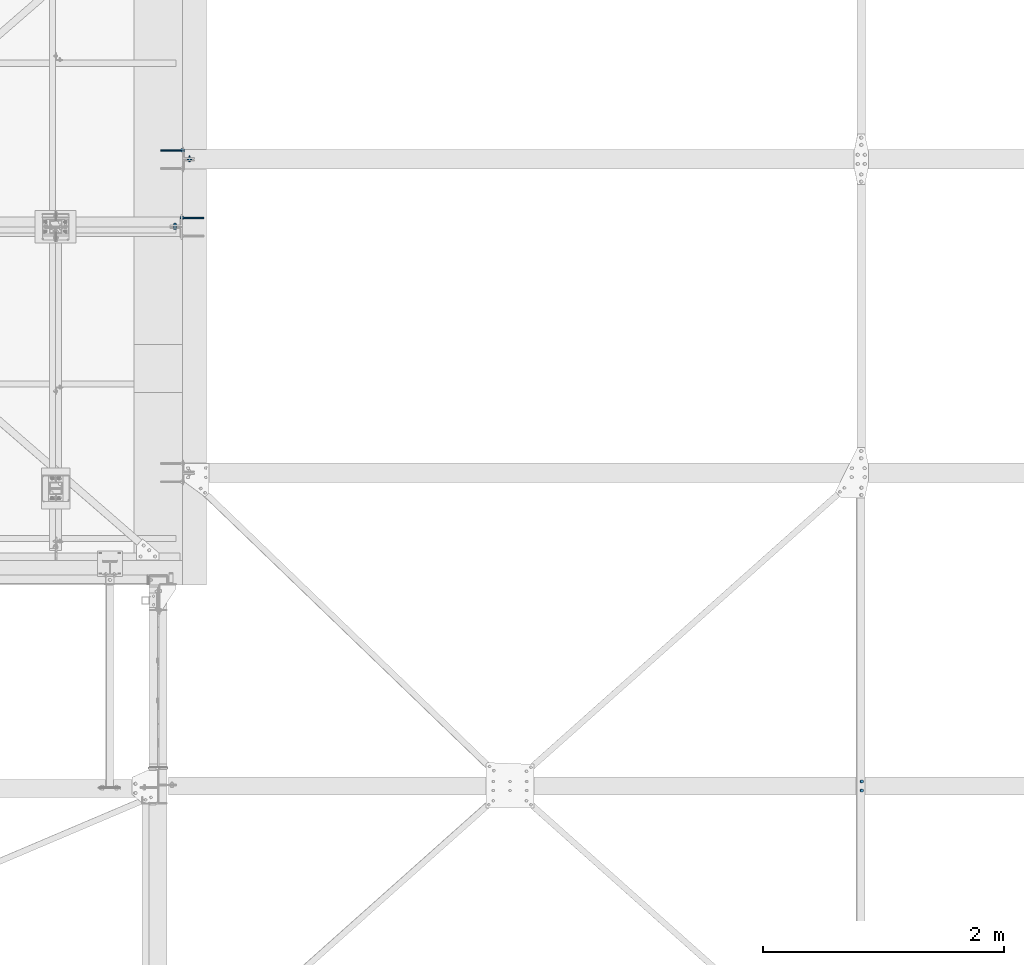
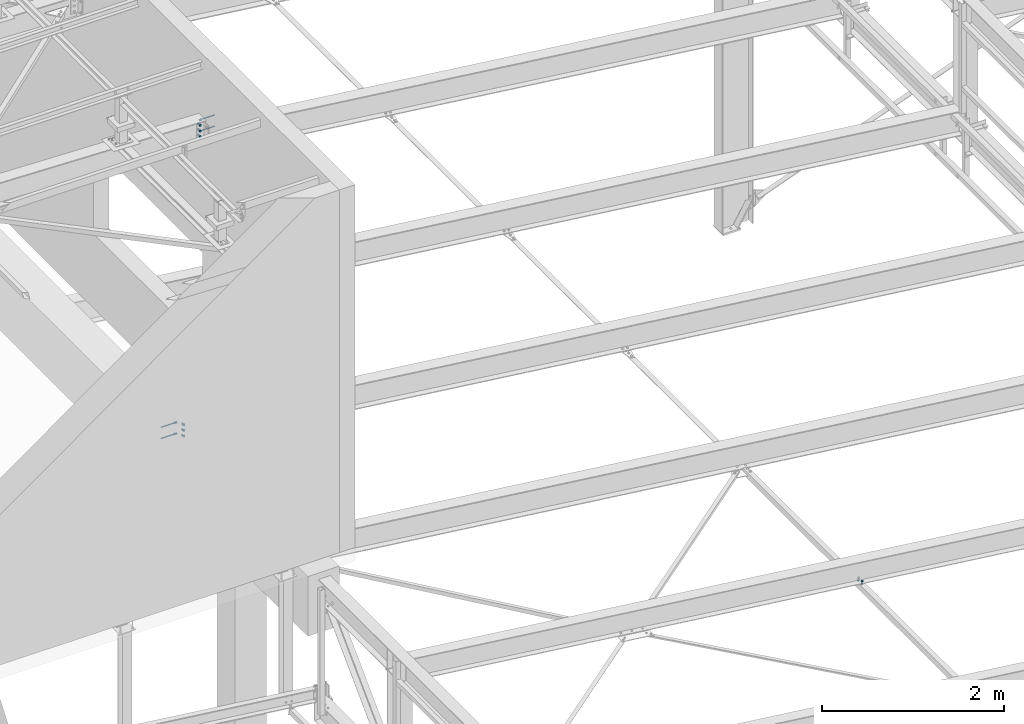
# One storey, part 269 of 3134: 5 mechanical fasteners, 4 elements without a shape of their own.
"""IFC2X3 building model written with IfcOpenShell, lengths in millimetres."""

from ifc_helpers import new_model, si_unit, frame, origin_with_axes, place, context, subcontext, project, spatial, faceted_brep, source, transform, mapped, material, type_object, element, aggregate, save


model = new_model("IFC2X3")

# Units and contexts
model_context = context("Model", 3, precision=1e-05, world=origin_with_axes())
body_context = subcontext(model_context, "Body", "Model", "MODEL_VIEW")
ifc_project = project(units=[si_unit("LENGTHUNIT", "METRE", prefix="MILLI"), si_unit("AREAUNIT", "SQUARE_METRE"), si_unit("VOLUMEUNIT", "CUBIC_METRE"), si_unit("MASSUNIT", "GRAM", prefix="KILO"), si_unit("TIMEUNIT", "SECOND"), si_unit("PLANEANGLEUNIT", "RADIAN"), si_unit("SOLIDANGLEUNIT", "STERADIAN"), si_unit("THERMODYNAMICTEMPERATUREUNIT", "DEGREE_CELSIUS"), si_unit("LUMINOUSINTENSITYUNIT", "LUMEN")], contexts=[model_context])

# Site, building, storey
site_placement = place(None, origin_with_axes())
site = spatial("IfcSite", under=ifc_project, at=site_placement, CompositionType="ELEMENT")
building_placement = place(site_placement, origin_with_axes())
building = spatial("IfcBuilding", under=site, at=building_placement, Name="Undefined", CompositionType="ELEMENT")
storey_placement = place(building_placement, origin_with_axes())
storey = spatial("IfcBuildingStorey", under=building, at=storey_placement, Name="Undefined", CompositionType="ELEMENT", Elevation=0.0)

# Assembly, mechanical fastener
assembly_1_placement = place(storey_placement, origin_with_axes())
assembly_1 = element("IfcElementAssembly", 1, at=assembly_1_placement, inside=storey, AssemblyPlace="NOTDEFINED", PredefinedType="RIGID_FRAME")
ifc_material_1 = material(Name="8.8")
mechanical_fastener_type = type_object("IfcMechanicalFastenerType", Name="Bolt assembly")
shared_shape_1 = source(origin_with_axes(), body_context, "Body", "Brep", [
    faceted_brep([(13.856406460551, -24.0, 0.0), (6.92820323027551, -24.0, 12.0), (-6.92820323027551, -24.0, 12.0), (-13.856406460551, -24.0, 1.69692038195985e-15), (-6.92820323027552, -24.0, -12.0), (6.9282032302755, -24.0, -12.0), (6.9282032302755, -14.0, -12.0), (-6.92820323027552, -14.0, -12.0), (-13.856406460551, -14.0, 1.69692038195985e-15), (-6.92820323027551, -14.0, 12.0), (6.92820323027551, -14.0, 12.0), (13.856406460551, -14.0, 0.0), (8.0, -14.0, 0.0), (6.92820323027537, -14.0, 4.00000000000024), (3.99999999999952, -14.0, 6.92820323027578), (-8.29068785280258e-13, -14.0, 8.0), (-4.00000000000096, -14.0, 6.92820323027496), (-6.9282032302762, -14.0, 3.99999999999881), (-8.0, -14.0, -1.65813757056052e-12), (-6.92820323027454, -14.0, -4.00000000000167), (-3.99999999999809, -14.0, -6.92820323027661), (2.47832457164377e-12, -14.0, -8.0), (4.00000000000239, -14.0, -6.92820323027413), (6.92820323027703, -14.0, -3.99999999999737), (6.92820323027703, 31.0, -3.99999999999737), (4.00000000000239, 31.0, -6.92820323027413), (2.47832457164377e-12, 31.0, -8.0), (-3.99999999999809, 31.0, -6.92820323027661), (-6.92820323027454, 31.0, -4.00000000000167), (-8.0, 31.0, -1.65813757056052e-12), (-6.9282032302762, 31.0, 3.99999999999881), (-4.00000000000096, 31.0, 6.92820323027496), (-8.29068785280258e-13, 31.0, 8.0), (3.99999999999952, 31.0, 6.92820323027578), (6.92820323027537, 31.0, 4.00000000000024), (8.0, 31.0, 0.0), (13.856406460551, 13.9999999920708, 0.0), (6.92820323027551, 13.9999999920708, 12.0), (-6.92820323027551, 13.9999999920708, 12.0), (-13.856406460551, 13.9999999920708, 1.69692038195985e-15), (-6.92820323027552, 13.9999999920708, -12.0), (6.9282032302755, 13.9999999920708, -12.0), (6.9282032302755, 27.0, -12.0), (-6.92820323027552, 27.0, -12.0), (-13.856406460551, 27.0, 1.69692038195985e-15), (-6.92820323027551, 27.0, 12.0), (6.92820323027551, 27.0, 12.0), (13.856406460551, 27.0, 0.0)], [[[0, 1, 2, 3, 4, 5]], [[6, 7, 8, 9, 10, 11]], [[0, 11, 10, 1]], [[1, 10, 9, 2]], [[2, 9, 8, 3]], [[3, 8, 7, 4]], [[4, 7, 6, 5]], [[5, 6, 11, 0]], [[12, 13, 14, 15, 16, 17, 18, 19, 20, 21, 22, 23]], [[24, 25, 26, 27, 28, 29, 30, 31, 32, 33, 34, 35]], [[12, 35, 34, 13]], [[13, 34, 33, 14]], [[14, 33, 32, 15]], [[15, 32, 31, 16]], [[16, 31, 30, 17]], [[17, 30, 29, 18]], [[18, 29, 28, 19]], [[19, 28, 27, 20]], [[20, 27, 26, 21]], [[21, 26, 25, 22]], [[22, 25, 24, 23]], [[23, 24, 35, 12]], [[36, 37, 38, 39, 40, 41]], [[42, 43, 44, 45, 46, 47]], [[36, 47, 46, 37]], [[37, 46, 45, 38]], [[38, 45, 44, 39]], [[39, 44, 43, 40]], [[40, 43, 42, 41]], [[41, 42, 47, 36]]]),
    faceted_brep([(9.0, -3.75, 8.0), (8.31491579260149, -3.75, 11.444150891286), (6.3639610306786, -3.75, 14.3639610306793), (-9.3270238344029e-13, -3.75, 17.0), (-4.50000000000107, -3.75, 15.7942286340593), (-7.79422863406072, -3.75, 12.4999999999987), (-9.0, -3.75, 7.99999999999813), (-9.0, -3.75, -8.00000000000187), (-7.79422863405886, -3.75, -12.5000000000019), (-4.49999999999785, -3.75, -15.7942286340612), (2.78811514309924e-12, -3.75, -17.0), (4.50000000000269, -3.75, -15.7942286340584), (7.79422863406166, -3.75, -12.499999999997), (9.0, -3.75, -7.99999999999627), (9.0, 3.75, -7.99999999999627), (7.79422863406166, 3.75, -12.499999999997), (4.50000000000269, 3.75, -15.7942286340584), (2.78811514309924e-12, 3.75, -17.0), (-4.49999999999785, 3.75, -15.7942286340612), (-7.79422863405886, 3.75, -12.5000000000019), (-9.0, 3.75, -8.00000000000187), (-9.0, 3.75, 7.99999999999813), (-7.79422863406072, 3.75, 12.4999999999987), (-4.50000000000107, 3.75, 15.7942286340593), (-9.3270238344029e-13, 3.75, 17.0), (3.44415089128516, 3.75, 16.3149157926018), (6.3639610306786, 3.75, 14.3639610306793), (8.31491579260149, 3.75, 11.444150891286), (9.0, 3.75, 8.0), (3.44415089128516, -3.75, 16.3149157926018), (9.0, 3.9, 0.0), (7.79422863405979, 3.9, 4.50000000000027), (4.49999999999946, 3.9, 7.79422863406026), (-9.3270238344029e-13, 3.9, 9.0), (-4.50000000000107, 3.9, 7.79422863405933), (-7.79422863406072, 3.9, 4.49999999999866), (-9.0, 3.9, -1.86540476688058e-12), (-7.79422863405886, 3.9, -4.50000000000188), (-4.49999999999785, 3.9, -7.79422863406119), (2.78811514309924e-12, 3.9, -9.0), (4.50000000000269, 3.9, -7.7942286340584), (7.79422863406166, 3.9, -4.49999999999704), (7.79422863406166, 14.0, -4.49999999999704), (4.50000000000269, 14.0, -7.7942286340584), (2.78811514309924e-12, 14.0, -9.0), (-4.49999999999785, 14.0, -7.79422863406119), (-7.79422863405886, 14.0, -4.50000000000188), (-9.0, 14.0, -1.86540476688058e-12), (-7.79422863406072, 14.0, 4.49999999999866), (-4.50000000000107, 14.0, 7.79422863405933), (-9.3270238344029e-13, 14.0, 9.0), (4.49999999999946, 14.0, 7.79422863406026), (7.79422863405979, 14.0, 4.50000000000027), (9.0, 14.0, 0.0), (9.0, -13.9, 0.0), (7.79422863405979, -13.9, 4.50000000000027), (4.49999999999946, -13.9, 7.79422863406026), (-9.3270238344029e-13, -13.9, 9.0), (-4.50000000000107, -13.9, 7.79422863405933), (-7.79422863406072, -13.9, 4.49999999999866), (-9.0, -13.9, -1.86540476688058e-12), (-7.79422863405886, -13.9, -4.50000000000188), (-4.49999999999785, -13.9, -7.79422863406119), (2.78811514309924e-12, -13.9, -9.0), (4.50000000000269, -13.9, -7.7942286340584), (7.79422863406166, -13.9, -4.49999999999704), (7.79422863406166, -3.9, -4.49999999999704), (4.50000000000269, -3.9, -7.7942286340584), (2.78811514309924e-12, -3.9, -9.0), (-4.49999999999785, -3.9, -7.79422863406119), (-7.79422863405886, -3.9, -4.50000000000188), (-9.0, -3.9, -1.86540476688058e-12), (-7.79422863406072, -3.9, 4.49999999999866), (-4.50000000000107, -3.9, 7.79422863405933), (-9.3270238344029e-13, -3.9, 9.0), (4.49999999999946, -3.9, 7.79422863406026), (7.79422863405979, -3.9, 4.50000000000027), (9.0, -3.9, 0.0)], [[[0, 1, 2, 3, 4, 5, 6, 7, 8, 9, 10, 11, 12, 13]], [[14, 15, 16, 17, 18, 19, 20, 21, 22, 23, 24, 25, 26, 27, 28]], [[0, 28, 27, 1]], [[1, 27, 26, 2]], [[2, 26, 25, 29]], [[29, 25, 24, 3]], [[3, 24, 23, 4]], [[4, 23, 22, 5]], [[5, 22, 21, 6]], [[6, 21, 20, 7]], [[7, 20, 19, 8]], [[8, 19, 18, 9]], [[9, 18, 17, 10]], [[10, 17, 16, 11]], [[11, 16, 15, 12]], [[12, 15, 14, 13]], [[13, 14, 28, 0]], [[30, 31, 32, 33, 34, 35, 36, 37, 38, 39, 40, 41]], [[42, 43, 44, 45, 46, 47, 48, 49, 50, 51, 52, 53]], [[30, 53, 52, 31]], [[31, 52, 51, 32]], [[32, 51, 50, 33]], [[33, 50, 49, 34]], [[34, 49, 48, 35]], [[35, 48, 47, 36]], [[36, 47, 46, 37]], [[37, 46, 45, 38]], [[38, 45, 44, 39]], [[39, 44, 43, 40]], [[40, 43, 42, 41]], [[41, 42, 53, 30]], [[54, 55, 56, 57, 58, 59, 60, 61, 62, 63, 64, 65]], [[66, 67, 68, 69, 70, 71, 72, 73, 74, 75, 76, 77]], [[54, 77, 76, 55]], [[55, 76, 75, 56]], [[56, 75, 74, 57]], [[57, 74, 73, 58]], [[58, 73, 72, 59]], [[59, 72, 71, 60]], [[60, 71, 70, 61]], [[61, 70, 69, 62]], [[62, 69, 68, 63]], [[63, 68, 67, 64]], [[64, 67, 66, 65]], [[65, 66, 77, 54]]]),
])
mechanical_fastener_1_placement = place(assembly_1_placement, frame((32665.0, 52690.0, 10096.4159140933), z_axis=(1.0, 0.0, 0.0), x_axis=(0.0, 0.0, -1.0)))
mechanical_fastener_1 = element("IfcMechanicalFastener", 2, at=mechanical_fastener_1_placement, type_object=mechanical_fastener_type, material=ifc_material_1, Name="Bolt assembly", NominalDiameter=16.0, NominalLength=45.0, context=body_context, shape_type="MappedRepresentation", body=[
    mapped(shared_shape_1, transform((0.0, 0.0, 0.0))),
    mapped(shared_shape_1, transform((75.0, 0.0, 0.0))),
    mapped(shared_shape_1, transform((150.0, 0.0, 0.0))),
])

assembly_2_placement = place(storey_placement, origin_with_axes())
assembly_2 = element("IfcElementAssembly", 3, at=assembly_2_placement, inside=storey, AssemblyPlace="NOTDEFINED", PredefinedType="RIGID_FRAME")
ifc_material_2 = material(Name="HILTI-HAS")
shared_shape_2 = source(origin_with_axes(), body_context, "Body", "Brep", [
    faceted_brep([(13.856406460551, -20.56, 0.0), (6.92820323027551, -20.56, 12.0), (-6.92820323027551, -20.56, 12.0), (-13.856406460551, -20.56, 1.69692038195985e-15), (-6.92820323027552, -20.56, -12.0), (6.9282032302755, -20.56, -12.0), (6.9282032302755, -10.0, -12.0), (-6.92820323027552, -10.0, -12.0), (-13.856406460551, -10.0, 1.69692038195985e-15), (-6.92820323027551, -10.0, 12.0), (6.92820323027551, -10.0, 12.0), (13.856406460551, -10.0, 0.0), (8.0, -10.0, 0.0), (6.92820323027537, -10.0, 4.00000000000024), (3.99999999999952, -10.0, 6.92820323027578), (-8.29068785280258e-13, -10.0, 8.0), (-4.00000000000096, -10.0, 6.92820323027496), (-6.9282032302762, -10.0, 3.99999999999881), (-8.0, -10.0, -1.65813757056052e-12), (-6.92820323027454, -10.0, -4.00000000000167), (-3.99999999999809, -10.0, -6.92820323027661), (2.47832457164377e-12, -10.0, -8.0), (4.00000000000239, -10.0, -6.92820323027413), (6.92820323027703, -10.0, -3.99999999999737), (6.92820323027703, 180.0, -3.99999999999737), (4.00000000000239, 180.0, -6.92820323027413), (2.47832457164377e-12, 180.0, -8.0), (-3.99999999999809, 180.0, -6.92820323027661), (-6.92820323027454, 180.0, -4.00000000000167), (-8.0, 180.0, -1.65813757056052e-12), (-6.9282032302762, 180.0, 3.99999999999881), (-4.00000000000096, 180.0, 6.92820323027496), (-8.29068785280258e-13, 180.0, 8.0), (3.99999999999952, 180.0, 6.92820323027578), (6.92820323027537, 180.0, 4.00000000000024), (8.0, 180.0, 0.0), (15.3344231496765, 7.105427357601e-15, 0.0), (7.66721157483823, 7.105427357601e-15, 13.28), (-7.66721157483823, 7.105427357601e-15, 13.28), (-15.3344231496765, 7.105427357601e-15, 1.87792522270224e-15), (-7.66721157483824, 7.105427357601e-15, -13.28), (7.66721157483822, 7.105427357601e-15, -13.28), (7.66721157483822, 10.56, -13.28), (-7.66721157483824, 10.56, -13.28), (-15.3344231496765, 10.56, 1.87792522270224e-15), (-7.66721157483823, 10.56, 13.28), (7.66721157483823, 10.56, 13.28), (15.3344231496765, 10.56, 0.0)], [[[0, 1, 2, 3, 4, 5]], [[6, 7, 8, 9, 10, 11]], [[0, 11, 10, 1]], [[1, 10, 9, 2]], [[2, 9, 8, 3]], [[3, 8, 7, 4]], [[4, 7, 6, 5]], [[5, 6, 11, 0]], [[12, 13, 14, 15, 16, 17, 18, 19, 20, 21, 22, 23]], [[24, 25, 26, 27, 28, 29, 30, 31, 32, 33, 34, 35]], [[12, 35, 34, 13]], [[13, 34, 33, 14]], [[14, 33, 32, 15]], [[15, 32, 31, 16]], [[16, 31, 30, 17]], [[17, 30, 29, 18]], [[18, 29, 28, 19]], [[19, 28, 27, 20]], [[20, 27, 26, 21]], [[21, 26, 25, 22]], [[22, 25, 24, 23]], [[23, 24, 35, 12]], [[36, 37, 38, 39, 40, 41]], [[42, 43, 44, 45, 46, 47]], [[36, 47, 46, 37]], [[37, 46, 45, 38]], [[38, 45, 44, 39]], [[39, 44, 43, 40]], [[40, 43, 42, 41]], [[41, 42, 47, 36]]]),
    faceted_brep([(9.0, -10.0, 0.0), (7.79422863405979, -10.0, 4.50000000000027), (4.49999999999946, -10.0, 7.79422863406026), (-9.3270238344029e-13, -10.0, 9.0), (-4.50000000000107, -10.0, 7.79422863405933), (-7.79422863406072, -10.0, 4.49999999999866), (-9.0, -10.0, -1.86540476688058e-12), (-7.79422863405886, -10.0, -4.50000000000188), (-4.49999999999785, -10.0, -7.79422863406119), (2.78811514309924e-12, -10.0, -9.0), (4.50000000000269, -10.0, -7.7942286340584), (7.79422863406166, -10.0, -4.49999999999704), (7.79422863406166, 0.100000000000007, -4.49999999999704), (4.50000000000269, 0.100000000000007, -7.7942286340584), (2.78811514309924e-12, 0.100000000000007, -9.0), (-4.49999999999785, 0.100000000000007, -7.79422863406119), (-7.79422863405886, 0.100000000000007, -4.50000000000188), (-9.0, 0.100000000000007, -1.86540476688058e-12), (-7.79422863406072, 0.100000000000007, 4.49999999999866), (-4.50000000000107, 0.100000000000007, 7.79422863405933), (-9.3270238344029e-13, 0.100000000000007, 9.0), (4.49999999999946, 0.100000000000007, 7.79422863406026), (7.79422863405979, 0.100000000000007, 4.50000000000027), (9.0, 0.100000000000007, 0.0)], [[[0, 1, 2, 3, 4, 5, 6, 7, 8, 9, 10, 11]], [[12, 13, 14, 15, 16, 17, 18, 19, 20, 21, 22, 23]], [[0, 23, 22, 1]], [[1, 22, 21, 2]], [[2, 21, 20, 3]], [[3, 20, 19, 4]], [[4, 19, 18, 5]], [[5, 18, 17, 6]], [[6, 17, 16, 7]], [[7, 16, 15, 8]], [[8, 15, 14, 9]], [[9, 14, 13, 10]], [[10, 13, 12, 11]], [[11, 12, 23, 0]]]),
])
mechanical_fastener_2_placement = place(assembly_2_placement, frame((32724.999999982, 53324.9999999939, 5696.01703557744), z_axis=(0.0, 1.0, 0.0), x_axis=(0.0, 0.0, -1.0)))
mechanical_fastener_2 = element("IfcMechanicalFastener", 4, at=mechanical_fastener_2_placement, type_object=mechanical_fastener_type, material=ifc_material_2, Name="Bolt assembly", NominalDiameter=16.0, NominalLength=190.0, context=body_context, shape_type="MappedRepresentation", body=[
    mapped(shared_shape_2, transform((0.0, 0.0, 0.0))),
    mapped(shared_shape_2, transform((150.0, 0.0, 0.0))),
])
aggregate(assembly_2, [mechanical_fastener_2])

# Mechanical fastener
mechanical_fastener_3_placement = place(assembly_1_placement, frame((32725.0, 52765.0, 10096.4159140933), z_axis=(0.0, -1.0, 0.0), x_axis=(0.0, 0.0, -1.0)))
mechanical_fastener_3 = element("IfcMechanicalFastener", 5, at=mechanical_fastener_3_placement, type_object=mechanical_fastener_type, material=ifc_material_2, Name="Bolt assembly", NominalDiameter=16.0, NominalLength=190.0, context=body_context, shape_type="MappedRepresentation", body=[
    mapped(shared_shape_2, transform((0.0, 0.0, 0.0))),
    mapped(shared_shape_2, transform((150.0, 0.0, 0.0))),
])

aggregate(assembly_1, [mechanical_fastener_3, mechanical_fastener_1])

# Assembly, mechanical fastener
assembly_3_placement = place(storey_placement, origin_with_axes())
assembly_3 = element("IfcElementAssembly", 6, at=assembly_3_placement, inside=storey, Name="IPE330", AssemblyPlace="NOTDEFINED", PredefinedType="RIGID_FRAME")
shared_shape_3 = source(origin_with_axes(), body_context, "Body", "Brep", [
    faceted_brep([(10.9696551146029, -21.75, 0.0), (5.48482755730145, -21.75, 9.5), (-5.48482755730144, -21.75, 9.5), (-10.9696551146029, -21.75, 1.34339530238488e-15), (-5.48482755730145, -21.75, -9.5), (5.48482755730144, -21.75, -9.50000000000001), (5.48482755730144, -13.75, -9.50000000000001), (-5.48482755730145, -13.75, -9.5), (-10.9696551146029, -13.75, 1.34339530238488e-15), (-5.48482755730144, -13.75, 9.5), (5.48482755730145, -13.75, 9.5), (10.9696551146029, -13.75, 0.0), (6.0, -13.75, 0.0), (5.19615242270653, -13.75, 3.00000000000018), (2.99999999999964, -13.75, 5.19615242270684), (-6.21801588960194e-13, -13.75, 6.0), (-3.00000000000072, -13.75, 5.19615242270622), (-5.19615242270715, -13.75, 2.9999999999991), (-6.0, -13.75, -1.24360317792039e-12), (-5.19615242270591, -13.75, -3.00000000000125), (-2.99999999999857, -13.75, -5.19615242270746), (1.85874342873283e-12, -13.75, -6.0), (3.00000000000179, -13.75, -5.1961524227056), (5.19615242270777, -13.75, -2.99999999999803), (5.19615242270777, 31.25, -2.99999999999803), (3.00000000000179, 31.25, -5.1961524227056), (1.85874342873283e-12, 31.25, -6.0), (-2.99999999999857, 31.25, -5.19615242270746), (-5.19615242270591, 31.25, -3.00000000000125), (-6.0, 31.25, -1.24360317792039e-12), (-5.19615242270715, 31.25, 2.9999999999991), (-3.00000000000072, 31.25, 5.19615242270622), (-6.21801588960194e-13, 31.25, 6.0), (2.99999999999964, 31.25, 5.19615242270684), (5.19615242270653, 31.25, 3.00000000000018), (6.0, 31.25, 0.0), (10.9696551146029, 13.7500000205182, 0.0), (5.48482755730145, 13.7500000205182, 9.5), (-5.48482755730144, 13.7500000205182, 9.5), (-10.9696551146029, 13.7500000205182, 1.34339530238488e-15), (-5.48482755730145, 13.7500000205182, -9.5), (5.48482755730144, 13.7500000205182, -9.50000000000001), (5.48482755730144, 23.7500000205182, -9.50000000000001), (-5.48482755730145, 23.7500000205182, -9.5), (-10.9696551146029, 23.7500000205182, 1.34339530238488e-15), (-5.48482755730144, 23.7500000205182, 9.5), (5.48482755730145, 23.7500000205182, 9.5), (10.9696551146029, 23.7500000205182, 0.0)], [[[0, 1, 2, 3, 4, 5]], [[6, 7, 8, 9, 10, 11]], [[0, 11, 10, 1]], [[1, 10, 9, 2]], [[2, 9, 8, 3]], [[3, 8, 7, 4]], [[4, 7, 6, 5]], [[5, 6, 11, 0]], [[12, 13, 14, 15, 16, 17, 18, 19, 20, 21, 22, 23]], [[24, 25, 26, 27, 28, 29, 30, 31, 32, 33, 34, 35]], [[12, 35, 34, 13]], [[13, 34, 33, 14]], [[14, 33, 32, 15]], [[15, 32, 31, 16]], [[16, 31, 30, 17]], [[17, 30, 29, 18]], [[18, 29, 28, 19]], [[19, 28, 27, 20]], [[20, 27, 26, 21]], [[21, 26, 25, 22]], [[22, 25, 24, 23]], [[23, 24, 35, 12]], [[36, 37, 38, 39, 40, 41]], [[42, 43, 44, 45, 46, 47]], [[36, 47, 46, 37]], [[37, 46, 45, 38]], [[38, 45, 44, 39]], [[39, 44, 43, 40]], [[40, 43, 42, 41]], [[41, 42, 47, 36]]]),
    faceted_brep([(7.0, -13.65, 0.0), (6.06217782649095, -13.65, 3.50000000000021), (3.49999999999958, -13.65, 6.06217782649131), (-7.25435187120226e-13, -13.65, 7.0), (-3.50000000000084, -13.65, 6.06217782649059), (-6.06217782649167, -13.65, 3.49999999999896), (-7.0, -13.65, -1.45087037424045e-12), (-6.06217782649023, -13.65, -3.50000000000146), (-3.49999999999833, -13.65, -6.06217782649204), (2.1685340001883e-12, -13.65, -7.0), (3.50000000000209, -13.65, -6.06217782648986), (6.0621778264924, -13.65, -3.4999999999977), (6.0621778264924, -3.65, -3.4999999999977), (3.50000000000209, -3.65, -6.06217782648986), (2.1685340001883e-12, -3.65, -7.0), (-3.49999999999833, -3.65, -6.06217782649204), (-6.06217782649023, -3.65, -3.50000000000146), (-7.0, -3.65, -1.45087037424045e-12), (-6.06217782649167, -3.65, 3.49999999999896), (-3.50000000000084, -3.65, 6.06217782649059), (-7.25435187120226e-13, -3.65, 7.0), (3.49999999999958, -3.65, 6.06217782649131), (6.06217782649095, -3.65, 3.50000000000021), (7.0, -3.65, 0.0), (7.0, -3.75, 13.0), (6.46715672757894, -3.75, 15.6787840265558), (4.94974746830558, -3.75, 17.9497474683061), (-7.25435187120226e-13, -3.75, 20.0), (-3.50000000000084, -3.75, 19.0621778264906), (-6.06217782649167, -3.75, 16.499999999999), (-7.0, -3.75, 12.9999999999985), (-7.0, -3.75, -13.0000000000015), (-6.06217782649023, -3.75, -16.5000000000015), (-3.49999999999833, -3.75, -19.062177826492), (2.1685340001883e-12, -3.75, -20.0), (3.50000000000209, -3.75, -19.0621778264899), (6.0621778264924, -3.75, -16.4999999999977), (7.0, -3.75, -12.9999999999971), (7.0, 3.75, -12.9999999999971), (6.0621778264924, 3.75, -16.4999999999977), (3.50000000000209, 3.75, -19.0621778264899), (2.1685340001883e-12, 3.75, -20.0), (-3.49999999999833, 3.75, -19.062177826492), (-6.06217782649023, 3.75, -16.5000000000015), (-7.0, 3.75, -13.0000000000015), (-7.0, 3.75, 12.9999999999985), (-6.06217782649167, 3.75, 16.499999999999), (-3.50000000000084, 3.75, 19.0621778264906), (-7.25435187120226e-13, 3.75, 20.0), (2.67878402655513, 3.75, 19.4671567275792), (4.94974746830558, 3.75, 17.9497474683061), (6.46715672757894, 3.75, 15.6787840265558), (7.0, 3.75, 13.0), (2.67878402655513, -3.75, 19.4671567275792), (7.0, 3.65000002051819, 0.0), (6.06217782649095, 3.65000002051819, 3.50000000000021), (3.49999999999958, 3.65000002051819, 6.06217782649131), (-7.25435187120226e-13, 3.65000002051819, 7.0), (-3.50000000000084, 3.65000002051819, 6.06217782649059), (-6.06217782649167, 3.65000002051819, 3.49999999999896), (-7.0, 3.65000002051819, -1.45087037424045e-12), (-6.06217782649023, 3.65000002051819, -3.50000000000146), (-3.49999999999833, 3.65000002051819, -6.06217782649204), (2.1685340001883e-12, 3.65000002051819, -7.0), (3.50000000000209, 3.65000002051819, -6.06217782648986), (6.0621778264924, 3.65000002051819, -3.4999999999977), (6.0621778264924, 13.7500000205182, -3.4999999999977), (3.50000000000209, 13.7500000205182, -6.06217782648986), (2.1685340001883e-12, 13.7500000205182, -7.0), (-3.49999999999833, 13.7500000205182, -6.06217782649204), (-6.06217782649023, 13.7500000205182, -3.50000000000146), (-7.0, 13.7500000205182, -1.45087037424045e-12), (-6.06217782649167, 13.7500000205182, 3.49999999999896), (-3.50000000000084, 13.7500000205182, 6.06217782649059), (-7.25435187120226e-13, 13.7500000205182, 7.0), (3.49999999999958, 13.7500000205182, 6.06217782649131), (6.06217782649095, 13.7500000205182, 3.50000000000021), (7.0, 13.7500000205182, 0.0)], [[[0, 1, 2, 3, 4, 5, 6, 7, 8, 9, 10, 11]], [[12, 13, 14, 15, 16, 17, 18, 19, 20, 21, 22, 23]], [[0, 23, 22, 1]], [[1, 22, 21, 2]], [[2, 21, 20, 3]], [[3, 20, 19, 4]], [[4, 19, 18, 5]], [[5, 18, 17, 6]], [[6, 17, 16, 7]], [[7, 16, 15, 8]], [[8, 15, 14, 9]], [[9, 14, 13, 10]], [[10, 13, 12, 11]], [[11, 12, 23, 0]], [[24, 25, 26, 27, 28, 29, 30, 31, 32, 33, 34, 35, 36, 37]], [[38, 39, 40, 41, 42, 43, 44, 45, 46, 47, 48, 49, 50, 51, 52]], [[24, 52, 51, 25]], [[25, 51, 50, 26]], [[26, 50, 49, 53]], [[53, 49, 48, 27]], [[27, 48, 47, 28]], [[28, 47, 46, 29]], [[29, 46, 45, 30]], [[30, 45, 44, 31]], [[31, 44, 43, 32]], [[32, 43, 42, 33]], [[33, 42, 41, 34]], [[34, 41, 40, 35]], [[35, 40, 39, 36]], [[36, 39, 38, 37]], [[37, 38, 52, 24]], [[54, 55, 56, 57, 58, 59, 60, 61, 62, 63, 64, 65]], [[66, 67, 68, 69, 70, 71, 72, 73, 74, 75, 76, 77]], [[54, 77, 76, 55]], [[55, 76, 75, 56]], [[56, 75, 74, 57]], [[57, 74, 73, 58]], [[58, 73, 72, 59]], [[59, 72, 71, 60]], [[60, 71, 70, 61]], [[61, 70, 69, 62]], [[62, 69, 68, 63]], [[63, 68, 67, 64]], [[64, 67, 66, 65]], [[65, 66, 77, 54]]]),
])
mechanical_fastener_4_placement = place(assembly_3_placement, frame((32785.0, 53250.0, 5696.01703557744), z_axis=(1.0, 0.0, 0.0), x_axis=(0.0, 0.0, -1.0)))
mechanical_fastener_4 = element("IfcMechanicalFastener", 7, at=mechanical_fastener_4_placement, type_object=mechanical_fastener_type, material=ifc_material_1, Name="Bolt assembly", NominalDiameter=12.0, NominalLength=45.0, context=body_context, shape_type="MappedRepresentation", body=[
    mapped(shared_shape_3, transform((0.0, 0.0, 0.0))),
    mapped(shared_shape_3, transform((75.0, 0.0, 0.0))),
    mapped(shared_shape_3, transform((150.0, 0.0, 0.0))),
])
aggregate(assembly_3, [mechanical_fastener_4])

assembly_4_placement = place(storey_placement, origin_with_axes())
assembly_4 = element("IfcElementAssembly", 8, at=assembly_4_placement, inside=storey, AssemblyPlace="NOTDEFINED", PredefinedType="RIGID_FRAME")
shared_shape_4 = source(origin_with_axes(), body_context, "Body", "Brep", [
    faceted_brep([(13.856406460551, -19.199990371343, 0.0), (6.92820323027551, -19.199990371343, 12.0), (-6.92820323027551, -19.199990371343, 12.0), (-13.856406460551, -19.199990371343, 1.69692038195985e-15), (-6.92820323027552, -19.199990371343, -12.0), (6.9282032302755, -19.199990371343, -12.0), (6.9282032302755, -9.19999037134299, -12.0), (-6.92820323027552, -9.19999037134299, -12.0), (-13.856406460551, -9.19999037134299, 1.69692038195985e-15), (-6.92820323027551, -9.19999037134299, 12.0), (6.92820323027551, -9.19999037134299, 12.0), (13.856406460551, -9.19999037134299, 0.0), (8.0, -9.19999037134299, 0.0), (6.92820323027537, -9.19999037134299, 4.00000000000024), (3.99999999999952, -9.19999037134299, 6.92820323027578), (-8.29068785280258e-13, -9.19999037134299, 8.0), (-4.00000000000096, -9.19999037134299, 6.92820323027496), (-6.9282032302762, -9.19999037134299, 3.99999999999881), (-8.0, -9.19999037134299, -1.65813757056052e-12), (-6.92820323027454, -9.19999037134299, -4.00000000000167), (-3.99999999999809, -9.19999037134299, -6.92820323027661), (2.47832457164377e-12, -9.19999037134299, -8.0), (4.00000000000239, -9.19999037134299, -6.92820323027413), (6.92820323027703, -9.19999037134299, -3.99999999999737), (6.92820323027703, 35.8000002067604, -3.99999999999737), (4.00000000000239, 35.8000002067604, -6.92820323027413), (2.47832457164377e-12, 35.8000002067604, -8.0), (-3.99999999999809, 35.8000002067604, -6.92820323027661), (-6.92820323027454, 35.8000002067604, -4.00000000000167), (-8.0, 35.8000002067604, -1.65813757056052e-12), (-6.9282032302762, 35.8000002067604, 3.99999999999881), (-4.00000000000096, 35.8000002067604, 6.92820323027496), (-8.29068785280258e-13, 35.8000002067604, 8.0), (3.99999999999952, 35.8000002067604, 6.92820323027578), (6.92820323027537, 35.8000002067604, 4.00000000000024), (8.0, 35.8000002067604, 0.0), (13.856406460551, 14.9999995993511, 0.0), (6.92820323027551, 14.9999995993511, 12.0), (-6.92820323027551, 14.9999995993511, 12.0), (-13.856406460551, 14.9999995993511, 1.69692038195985e-15), (-6.92820323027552, 14.9999995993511, -12.0), (6.9282032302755, 14.9999995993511, -12.0), (6.9282032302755, 27.9999995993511, -12.0), (-6.92820323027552, 27.9999995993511, -12.0), (-13.856406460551, 27.9999995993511, 1.69692038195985e-15), (-6.92820323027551, 27.9999995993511, 12.0), (6.92820323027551, 27.9999995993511, 12.0), (13.856406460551, 27.9999995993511, 0.0)], [[[0, 1, 2, 3, 4, 5]], [[6, 7, 8, 9, 10, 11]], [[0, 11, 10, 1]], [[1, 10, 9, 2]], [[2, 9, 8, 3]], [[3, 8, 7, 4]], [[4, 7, 6, 5]], [[5, 6, 11, 0]], [[12, 13, 14, 15, 16, 17, 18, 19, 20, 21, 22, 23]], [[24, 25, 26, 27, 28, 29, 30, 31, 32, 33, 34, 35]], [[12, 35, 34, 13]], [[13, 34, 33, 14]], [[14, 33, 32, 15]], [[15, 32, 31, 16]], [[16, 31, 30, 17]], [[17, 30, 29, 18]], [[18, 29, 28, 19]], [[19, 28, 27, 20]], [[20, 27, 26, 21]], [[21, 26, 25, 22]], [[22, 25, 24, 23]], [[23, 24, 35, 12]], [[36, 37, 38, 39, 40, 41]], [[42, 43, 44, 45, 46, 47]], [[36, 47, 46, 37]], [[37, 46, 45, 38]], [[38, 45, 44, 39]], [[39, 44, 43, 40]], [[40, 43, 42, 41]], [[41, 42, 47, 36]]]),
    faceted_brep([(9.0, -9.09999037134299, 0.0), (7.79422863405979, -9.09999037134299, 4.50000000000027), (4.49999999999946, -9.09999037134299, 7.79422863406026), (-9.3270238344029e-13, -9.09999037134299, 9.0), (-4.50000000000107, -9.09999037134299, 7.79422863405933), (-7.79422863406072, -9.09999037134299, 4.49999999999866), (-9.0, -9.09999037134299, -1.86540476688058e-12), (-7.79422863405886, -9.09999037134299, -4.50000000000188), (-4.49999999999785, -9.09999037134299, -7.79422863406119), (2.78811514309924e-12, -9.09999037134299, -9.0), (4.50000000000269, -9.09999037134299, -7.7942286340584), (7.79422863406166, -9.09999037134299, -4.49999999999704), (7.79422863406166, 0.100000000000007, -4.49999999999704), (4.50000000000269, 0.100000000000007, -7.7942286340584), (2.78811514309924e-12, 0.100000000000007, -9.0), (-4.49999999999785, 0.100000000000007, -7.79422863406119), (-7.79422863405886, 0.100000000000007, -4.50000000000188), (-9.0, 0.100000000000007, -1.86540476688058e-12), (-7.79422863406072, 0.100000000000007, 4.49999999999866), (-4.50000000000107, 0.100000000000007, 7.79422863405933), (-9.3270238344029e-13, 0.100000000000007, 9.0), (4.49999999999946, 0.100000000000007, 7.79422863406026), (7.79422863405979, 0.100000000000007, 4.50000000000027), (9.0, 0.100000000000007, 0.0), (9.0, 7.9, 0.0), (7.79422863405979, 7.9, 4.50000000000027), (4.49999999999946, 7.9, 7.79422863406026), (-9.3270238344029e-13, 7.9, 9.0), (-4.50000000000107, 7.9, 7.79422863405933), (-7.79422863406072, 7.9, 4.49999999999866), (-9.0, 7.9, -1.86540476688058e-12), (-7.79422863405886, 7.9, -4.50000000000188), (-4.49999999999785, 7.9, -7.79422863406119), (2.78811514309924e-12, 7.9, -9.0), (4.50000000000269, 7.9, -7.7942286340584), (7.79422863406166, 7.9, -4.49999999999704), (7.79422863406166, 14.9999995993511, -4.49999999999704), (4.50000000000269, 14.9999995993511, -7.7942286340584), (2.78811514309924e-12, 14.9999995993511, -9.0), (-4.49999999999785, 14.9999995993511, -7.79422863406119), (-7.79422863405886, 14.9999995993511, -4.50000000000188), (-9.0, 14.9999995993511, -1.86540476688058e-12), (-7.79422863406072, 14.9999995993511, 4.49999999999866), (-4.50000000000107, 14.9999995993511, 7.79422863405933), (-9.3270238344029e-13, 14.9999995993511, 9.0), (4.49999999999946, 14.9999995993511, 7.79422863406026), (7.79422863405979, 14.9999995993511, 4.50000000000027), (9.0, 14.9999995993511, 0.0)], [[[0, 1, 2, 3, 4, 5, 6, 7, 8, 9, 10, 11]], [[12, 13, 14, 15, 16, 17, 18, 19, 20, 21, 22, 23]], [[0, 23, 22, 1]], [[1, 22, 21, 2]], [[2, 21, 20, 3]], [[3, 20, 19, 4]], [[4, 19, 18, 5]], [[5, 18, 17, 6]], [[6, 17, 16, 7]], [[7, 16, 15, 8]], [[8, 15, 14, 9]], [[9, 14, 13, 10]], [[10, 13, 12, 11]], [[11, 12, 23, 0]], [[24, 25, 26, 27, 28, 29, 30, 31, 32, 33, 34, 35]], [[36, 37, 38, 39, 40, 41, 42, 43, 44, 45, 46, 47]], [[24, 47, 46, 25]], [[25, 46, 45, 26]], [[26, 45, 44, 27]], [[27, 44, 43, 28]], [[28, 43, 42, 29]], [[29, 42, 41, 30]], [[30, 41, 40, 31]], [[31, 40, 39, 32]], [[32, 39, 38, 33]], [[33, 38, 37, 34]], [[34, 37, 36, 35]], [[35, 36, 47, 24]]]),
])
mechanical_fastener_5_placement = place(assembly_4_placement, frame((38362.9849612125, 48012.0, 4806.73358922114), z_axis=(-0.992623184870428, 0.0, 0.121240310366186), x_axis=(0.0, 1.0, 0.0)))
mechanical_fastener_5 = element("IfcMechanicalFastener", 9, at=mechanical_fastener_5_placement, type_object=mechanical_fastener_type, material=ifc_material_1, Name="Bolt assembly", NominalDiameter=16.0, NominalLength=45.0, context=body_context, shape_type="MappedRepresentation", body=[
    mapped(shared_shape_4, transform((0.0, 0.0, 0.0))),
    mapped(shared_shape_4, transform((76.0, 0.0, 0.0))),
])
aggregate(assembly_4, [mechanical_fastener_5])

save(model, "model.ifc")
